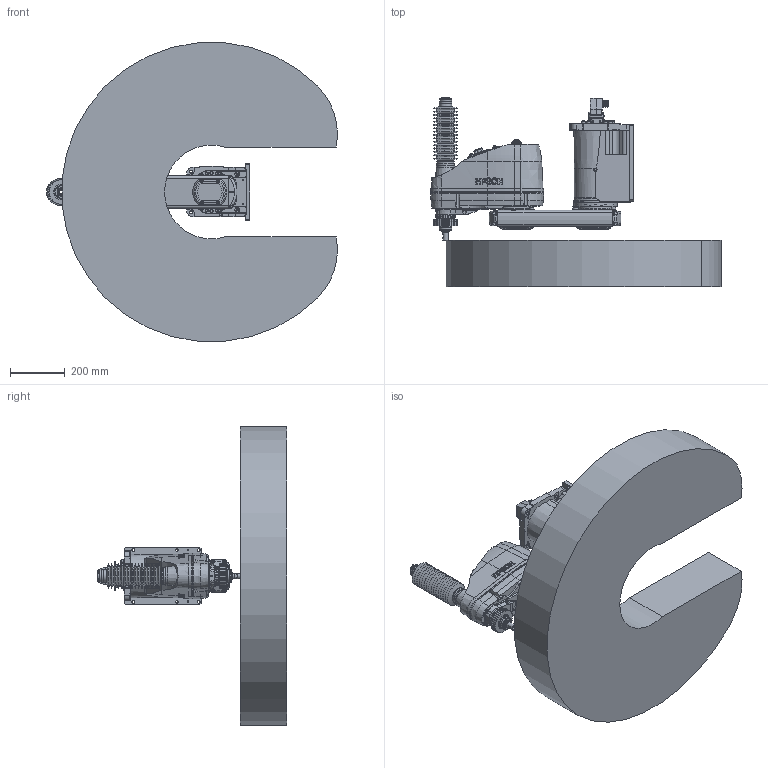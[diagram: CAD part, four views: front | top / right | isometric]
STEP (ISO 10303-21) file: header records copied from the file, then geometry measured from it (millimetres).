
FILE_DESCRIPTION( ( 'STEP AP214' ), '1' );
FILE_NAME( 'C:/Users/9607552/Desktop/GX8-B552CW_langle.stp', '2023-07-07T02:41:16', ( '' ), ( '' ), ' ', 'PARTsolutions', ' ' );
FILE_SCHEMA( ( 'AUTOMOTIVE_DESIGN { 1 0 10303 214 1 1 1 1 }' ) );
Length unit declared in the file: millimetre
Products named in the file (11): GX8-B552CWA-W; _B552CW_BASE; _B552CR; _B552CR_1; _B552CR_2; _B452C_J2; _B452CZA; _1-B-long; _1-B-short; _Angle-B; _GX8-18-B_WS
Assembly tree (12 placements, depth 2):
  GX8-B552CWA-W
    _B552CW_BASE
    _B552CR
    _B552CR_1  x2
    _B552CR_2  x2
    _B452C_J2
    _B452CZA
    _1-B-long
    _1-B-short
    _Angle-B
    _GX8-18-B_WS
Bounding box: 1066.99 x 695.5 x 1095.81 mm (x, y, z)
Volume: 145704144.8 mm3; surface area: 3689642.4 mm2
Topology: 12 solids, 16 shells, 3312 faces, 7999 edges, 5179 vertices
Faces by surface type: plane 1620, cylinder 1091, cone 400, torus 159, bspline 37, sphere 5
Full cylindrical faces by diameter (mm): 1 x48, 1.18 x55, 2.261 x4, 2.459 x12, 3 x32, 3.242 x18, 3.3 x4, 3.9 x4, 4.2 x8, 4.5 x12, 4.8 x5, 5.34 x4, 5.5 x17, 6 x6, 6.2 x4, 6.647 x4, 6.8 x2, 7 x42, 8 x5, 8.5 x4, 9 x24, 10 x24, 11 x4, 11.2 x5, 11.5 x1, 12 x5, 12.2 x1, 12.25 x1, 13 x7, 13.2 x12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
Entity records: 117579 total; most frequent: CARTESIAN_POINT 21759, DIRECTION 14721, ORIENTED_EDGE 13210, EDGE_CURVE 6605, AXIS2_PLACEMENT_3D 5731, VERTEX_POINT 4791, EDGE_LOOP 4496, FACE_OUTER_BOUND 3730
